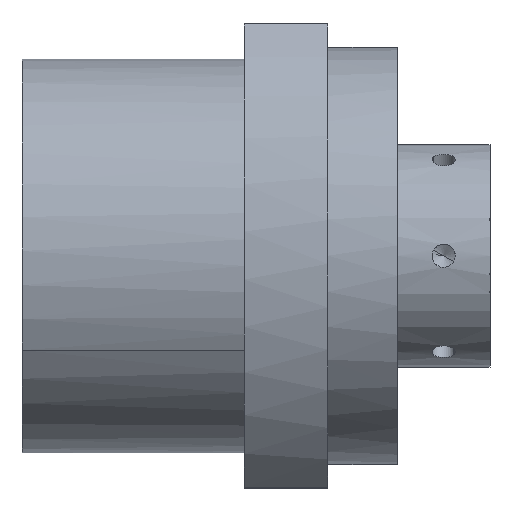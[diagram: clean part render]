
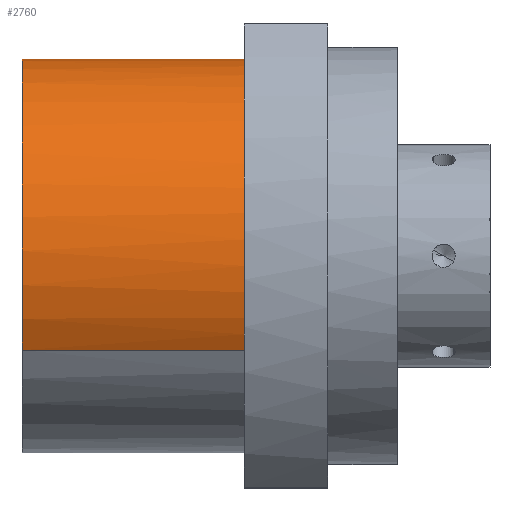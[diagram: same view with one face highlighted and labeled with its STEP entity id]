
A CAD part, top view. The second image highlights one B-rep face of the part: STEP entity #2760.
In plain terms, the highlighted cylindrical face has radius 42.5 mm (diameter 85 mm), a partial arc.
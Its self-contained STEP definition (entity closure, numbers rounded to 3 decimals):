
#1871=CARTESIAN_POINT('Control Point',(-18.,20.376,-37.297)) ;
#1872=CARTESIAN_POINT('Control Point',(-18.,24.019,-35.307)) ;
#1873=CARTESIAN_POINT('Control Point',(-18.,27.42,-32.871)) ;
#1874=CARTESIAN_POINT('Control Point',(-18.,30.505,-30.03)) ;
#1875=CARTESIAN_POINT('Control Point',(-18.,35.918,-23.653)) ;
#1876=CARTESIAN_POINT('Control Point',(-18.,39.638,-16.16)) ;
#1877=CARTESIAN_POINT('Control Point',(-18.,41.03,-12.204)) ;
#1878=CARTESIAN_POINT('Control Point',(-18.,42.818,-4.032)) ;
#1879=CARTESIAN_POINT('Control Point',(-18.,42.587,4.33)) ;
#1880=CARTESIAN_POINT('Control Point',(-18.,41.958,8.477)) ;
#1881=CARTESIAN_POINT('Control Point',(-18.,39.702,16.532)) ;
#1882=CARTESIAN_POINT('Control Point',(-18.,35.574,23.808)) ;
#1883=CARTESIAN_POINT('Control Point',(-18.,33.074,27.175)) ;
#1884=CARTESIAN_POINT('Control Point',(-18.,27.302,33.23)) ;
#1885=CARTESIAN_POINT('Control Point',(-18.,20.242,37.718)) ;
#1886=CARTESIAN_POINT('Control Point',(-18.,16.454,39.517)) ;
#1887=CARTESIAN_POINT('Control Point',(-18.,8.515,42.156)) ;
#1888=CARTESIAN_POINT('Control Point',(-18.,0.175,42.806)) ;
#1889=CARTESIAN_POINT('Control Point',(-18.,-4.014,42.617)) ;
#1890=CARTESIAN_POINT('Control Point',(-18.,-9.919,41.618)) ;
#1891=CARTESIAN_POINT('Control Point',(-18.,-15.527,39.623)) ;
#1892=CARTESIAN_POINT('Control Point',(-18.,-17.184,38.933)) ;
#1893=CARTESIAN_POINT('Control Point',(-18.,-18.803,38.157)) ;
#1894=CARTESIAN_POINT('Control Point',(-18.,-20.376,37.297)) ;
#1895=CARTESIAN_POINT('Vertex',(-18.,20.376,-37.297)) ;
#1897=CARTESIAN_POINT('Vertex',(-18.,-20.376,37.297)) ;
#2730=CARTESIAN_POINT('Axis2P3D Location',(-84.861,0.,0.)) ;
#2735=CARTESIAN_POINT('Line Origine',(-84.861,-20.376,37.297)) ;
#2739=CARTESIAN_POINT('Vertex',(-66.,-20.376,37.297)) ;
#2742=CARTESIAN_POINT('Line Origine',(-84.861,20.376,-37.297)) ;
#2746=CARTESIAN_POINT('Vertex',(-66.,20.376,-37.297)) ;
#2749=CARTESIAN_POINT('Axis2P3D Location',(-66.,0.,0.)) ;
#2731=DIRECTION('Axis2P3D Direction',(1.,0.,0.)) ;
#2732=DIRECTION('Axis2P3D XDirection',(0.,0.479,-0.878)) ;
#2736=DIRECTION('Vector Direction',(1.,0.,0.)) ;
#2743=DIRECTION('Vector Direction',(1.,0.,0.)) ;
#2750=DIRECTION('Axis2P3D Direction',(1.,0.,0.)) ;
#2733=AXIS2_PLACEMENT_3D('Cylinder Axis2P3D',#2730,#2731,#2732) ;
#2751=AXIS2_PLACEMENT_3D('Circle Axis2P3D',#2749,#2750,$) ;
#2755=ORIENTED_EDGE('',*,*,#2741,.F.) ;
#2756=ORIENTED_EDGE('',*,*,#1899,.F.) ;
#2757=ORIENTED_EDGE('',*,*,#2748,.T.) ;
#2758=ORIENTED_EDGE('',*,*,#2753,.T.) ;
#2737=VECTOR('Line Direction',#2736,1.) ;
#2744=VECTOR('Line Direction',#2743,1.) ;
#2760=ADVANCED_FACE('WBK30DFD(H)',(#2759),#2734,.T.) ;
#1870=B_SPLINE_CURVE_WITH_KNOTS('',5,(#1871,#1872,#1873,#1874,#1875,#1876,#1877,#1878,#1879,#1880,#1881,#1882,#1883,#1884,#1885,#1886,#1887,#1888,#1889,#1890,#1891,#1892,#1893,#1894),.UNSPECIFIED.,.F.,.U.,(6,3,3,3,3,3,3,6),(0.,29.358,58.716,88.073,117.431,146.789,176.147,188.821),.UNSPECIFIED.) ;
#2752=CIRCLE('generated circle',#2751,42.5) ;
#2734=CYLINDRICAL_SURFACE('generated cylinder',#2733,42.5) ;
#1899=EDGE_CURVE('',#1896,#1898,#1870,.T.) ;
#2741=EDGE_CURVE('',#1898,#2740,#2738,.F.) ;
#2748=EDGE_CURVE('',#1896,#2747,#2745,.F.) ;
#2753=EDGE_CURVE('',#2747,#2740,#2752,.T.) ;
#2754=EDGE_LOOP('',(#2755,#2756,#2757,#2758)) ;
#2759=FACE_OUTER_BOUND('',#2754,.T.) ;
#2738=LINE('Line',#2735,#2737) ;
#2745=LINE('Line',#2742,#2744) ;
#1896=VERTEX_POINT('',#1895) ;
#1898=VERTEX_POINT('',#1897) ;
#2740=VERTEX_POINT('',#2739) ;
#2747=VERTEX_POINT('',#2746) ;
